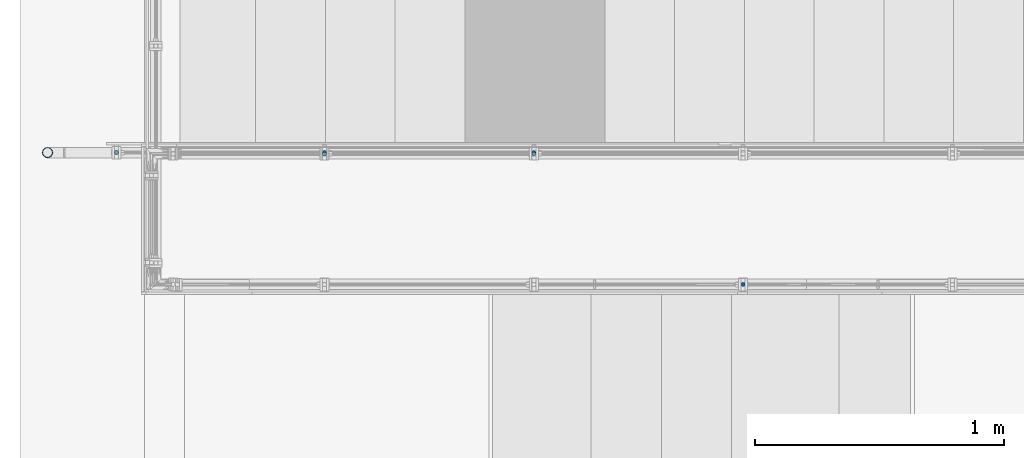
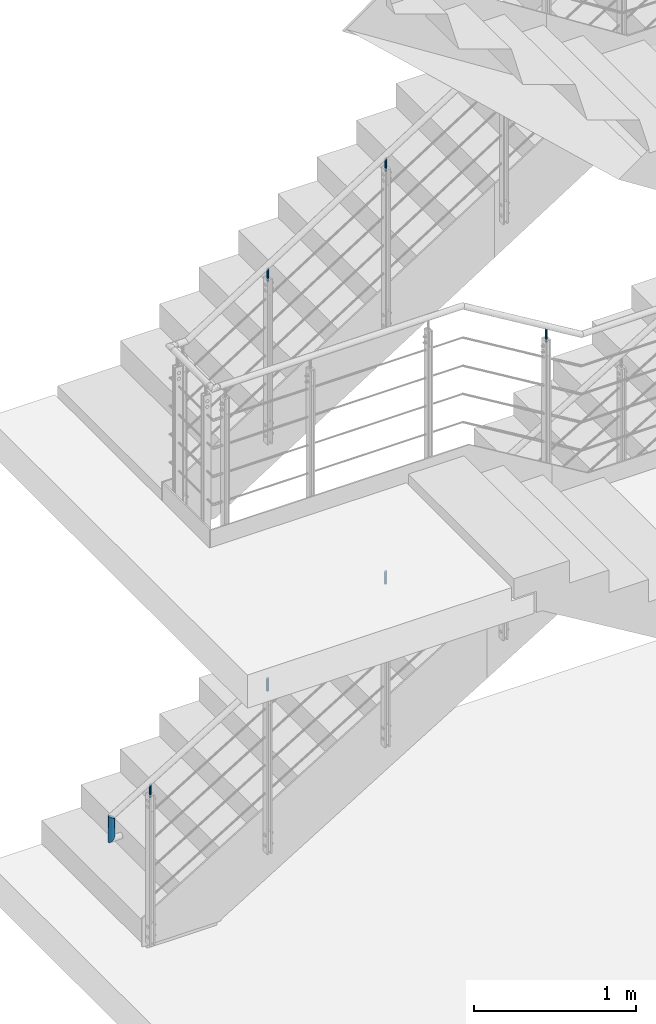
# One storey, part 6 of 98: 7 columns.
"""IFC2X3 building model written with IfcOpenShell, lengths in millimetres."""

from ifc_helpers import new_model, entity, si_unit, converted_unit, frame, origin, origin_with_axes, origin_2d, place, context, project, spatial, circle, hollow_circle, extrude, clip, halfspace, material, element, save


model = new_model("IFC2X3")

# Units and contexts
model_context = context("Model", 3, precision=1e-09, world=origin_with_axes())
ifc_project = project(units=[si_unit("LENGTHUNIT", "METRE", prefix="MILLI"), si_unit("AREAUNIT", "SQUARE_METRE"), si_unit("VOLUMEUNIT", "CUBIC_METRE"), converted_unit("PLANEANGLEUNIT", "DEGREE", entity("IfcPlaneAngleMeasure", 0.01745329), si_unit("PLANEANGLEUNIT", "RADIAN"), dimensions=[0, 0, 0, 0, 0, 0, 0])], contexts=[model_context])

# Site, building, storey
site_placement = place(None, origin_with_axes())
site = spatial("IfcSite", under=ifc_project, at=site_placement, Name="Maybachstra?e 2, 71563 Affalterbach", CompositionType="ELEMENT")
building_placement = place(site_placement, origin_with_axes())
building = spatial("IfcBuilding", under=site, at=building_placement, Name="Struktur 1", CompositionType="ELEMENT")
storey_placement = place(building_placement, origin_with_axes())
storey = spatial("IfcBuildingStorey", under=building, at=storey_placement, Name="Default Storey", CompositionType="ELEMENT", Elevation=0.0)

# Columns
ifc_material = material(Name="1.4301")
column_1_placement = place(None, frame((9695.029157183, -569.0, 4112.548577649), z_axis=(0.0, 0.0, 1.0), x_axis=(-1.0, 0.0, 0.0)))
element("IfcColumn", 1, at=column_1_placement, inside=storey, material=ifc_material, Name="-", ObjectType="-", context=model_context, shape_type="Clipping", body=[
    clip(extrude(circle(Radius=8.0, at=origin_2d()), origin(), (0.0, 0.0, -1.0), 113.210500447), halfspace(frame((5300.294046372, -569.0, 3177.498547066), z_axis=(0.516283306, 0.0, -0.856417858), x_axis=(0.0, 1.0, 0.0)), True)),
])
column_2_placement = place(None, frame((8015.029157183, -40.0, 1752.425903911), z_axis=(0.0, 0.0, -1.0), x_axis=(1.0, 0.0, 0.0)))
element("IfcColumn", 2, at=column_2_placement, inside=storey, material=ifc_material, Name="-", ObjectType="-", context=model_context, shape_type="Clipping", body=[
    clip(extrude(circle(Radius=8.0, at=origin_2d()), origin(), (0.0, 0.0, 1.0), 113.243566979), halfspace(frame((-6619.601920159, -40.0, 4045.717914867), z_axis=(0.519813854, 0.0, 0.854279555), x_axis=(0.0, -1.0, 0.0)), True)),
])
column_3_placement = place(None, frame((7180.030157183, -40.0, 1244.343923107), z_axis=(0.0, 0.0, -1.0), x_axis=(1.0, 0.0, 0.0)))
element("IfcColumn", 3, at=column_3_placement, inside=storey, material=ifc_material, Name="-", ObjectType="-", context=model_context, shape_type="Clipping", body=[
    clip(extrude(circle(Radius=8.0, at=origin_2d()), origin(), (0.0, 0.0, 1.0), 113.243566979), halfspace(frame((-5784.602920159, -40.0, 3537.635934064), z_axis=(0.519813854, 0.0, 0.854279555), x_axis=(0.0, -1.0, 0.0)), True)),
])
column_4_placement = place(None, frame((8855.029157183, -40.0, 2263.550903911), z_axis=(0.0, 0.0, -1.0), x_axis=(1.0, 0.0, 0.0)))
element("IfcColumn", 4, at=column_4_placement, inside=storey, material=ifc_material, Name="-", ObjectType="-", context=model_context, shape_type="Clipping", body=[
    clip(extrude(circle(Radius=8.0, at=origin_2d()), origin(), (0.0, 0.0, 1.0), 113.243566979), halfspace(frame((-7459.601920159, -40.0, 4556.842914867), z_axis=(0.519813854, 0.0, 0.854279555), x_axis=(0.0, -1.0, 0.0)), True)),
])
column_5_placement = place(None, frame((8855.029157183, -45.0, 5375.335921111), z_axis=(0.0, 0.0, -1.0), x_axis=(1.0, 0.0, 0.0)))
element("IfcColumn", 5, at=column_5_placement, inside=storey, material=ifc_material, Name="-", ObjectType="-", context=model_context, shape_type="Clipping", body=[
    clip(extrude(circle(Radius=8.0, at=origin_2d()), origin(), (0.0, 0.0, 1.0), 113.412216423), halfspace(frame((-8727.841875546, -45.0, 5575.099858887), z_axis=(0.537070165, 0.0, 0.843537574), x_axis=(0.0, -1.0, 0.0)), True)),
])
column_6_placement = place(None, frame((8015.029157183, -45.0, 4840.518086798), z_axis=(0.0, 0.0, -1.0), x_axis=(1.0, 0.0, 0.0)))
element("IfcColumn", 6, at=column_6_placement, inside=storey, material=ifc_material, Name="-", ObjectType="-", context=model_context, shape_type="Clipping", body=[
    clip(extrude(circle(Radius=8.0, at=origin_2d()), origin(), (0.0, 0.0, 1.0), 113.412216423), halfspace(frame((-7887.841875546, -45.0, 5040.282024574), z_axis=(0.537070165, 0.0, 0.843537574), x_axis=(0.0, -1.0, 0.0)), True)),
])
column_7_placement = place(None, frame((6903.480157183, -40.0, 1117.469112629), z_axis=(0.0, 0.0, 1.0), x_axis=(0.0, 1.0, 0.0)))
element("IfcColumn", 7, at=column_7_placement, inside=storey, material=ifc_material, Name="-", ObjectType="-", context=model_context, shape_type="Clipping", body=[
    clip(clip(extrude(hollow_circle(Radius=21.2, WallThickness=3.0, at=origin_2d()), origin(), (0.0, 0.0, -1.0), 243.677783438), halfspace(frame((40.0, 4783.378012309, 2654.317996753), z_axis=(0.0, 0.489992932, -0.871726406), x_axis=(-1.0, 0.0, 0.0)), True)), halfspace(frame((40.0, 3909.836450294, -4111.112819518), z_axis=(0.0, 0.707106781, 0.707106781), x_axis=(-1.0, 0.0, 0.0)), True)),
])

save(model, "model.ifc")
